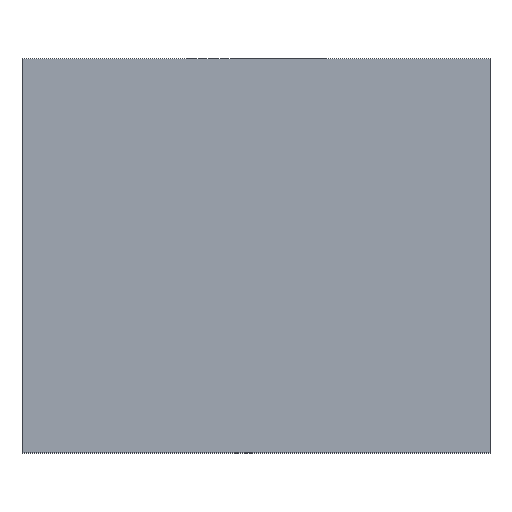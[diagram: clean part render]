
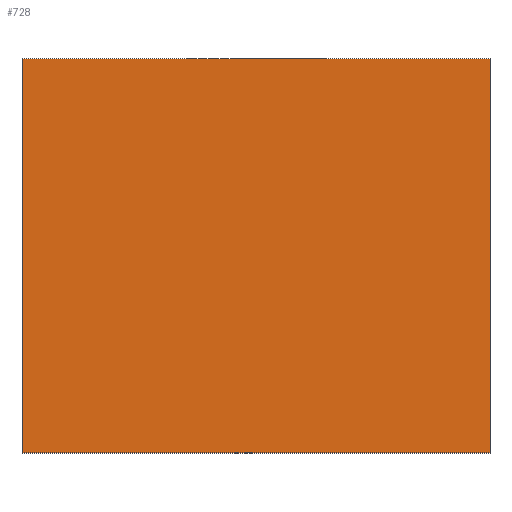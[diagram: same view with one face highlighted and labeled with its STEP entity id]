
A CAD part, top view. The second image highlights one B-rep face of the part: STEP entity #728.
In plain terms, the highlighted planar face has unit normal (0, 0, 1).
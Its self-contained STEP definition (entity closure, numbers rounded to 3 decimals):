
#81 = CARTESIAN_POINT ( 'NONE',  ( 0., 32., 10. ) ) ;
#89 = EDGE_CURVE ( 'NONE', #110, #757, #404, .T. ) ;
#105 = VECTOR ( 'NONE', #781, 1000. ) ;
#110 = VERTEX_POINT ( 'NONE', #237 ) ;
#118 = EDGE_LOOP ( 'NONE', ( #452, #846, #479, #935 ) ) ;
#139 = VERTEX_POINT ( 'NONE', #244 ) ;
#144 = CARTESIAN_POINT ( 'NONE',  ( 38., 32., 10. ) ) ;
#234 = CARTESIAN_POINT ( 'NONE',  ( 0., 32., 10. ) ) ;
#237 = CARTESIAN_POINT ( 'NONE',  ( 38., 0., 10. ) ) ;
#244 = CARTESIAN_POINT ( 'NONE',  ( 0., 0., 10. ) ) ;
#253 = DIRECTION ( 'NONE',  ( -1., 0., 0. ) ) ;
#281 = EDGE_CURVE ( 'NONE', #785, #139, #592, .T. ) ;
#293 = AXIS2_PLACEMENT_3D ( 'NONE', #1031, #959, #253 ) ;
#319 = DIRECTION ( 'NONE',  ( 0., 1., 0. ) ) ;
#321 = LINE ( 'NONE', #234, #105 ) ;
#392 = LINE ( 'NONE', #403, #463 ) ;
#403 = CARTESIAN_POINT ( 'NONE',  ( 0., 0., 10. ) ) ;
#404 = LINE ( 'NONE', #658, #893 ) ;
#452 = ORIENTED_EDGE ( 'NONE', *, *, #281, .T. ) ;
#463 = VECTOR ( 'NONE', #555, 1000. ) ;
#479 = ORIENTED_EDGE ( 'NONE', *, *, #89, .T. ) ;
#498 = FACE_OUTER_BOUND ( 'NONE', #118, .T. ) ;
#505 = CARTESIAN_POINT ( 'NONE',  ( 0., 0., 10. ) ) ;
#555 = DIRECTION ( 'NONE',  ( 1., 0., 0. ) ) ;
#592 = LINE ( 'NONE', #505, #610 ) ;
#610 = VECTOR ( 'NONE', #753, 1000. ) ;
#625 = PLANE ( 'NONE',  #293 ) ;
#658 = CARTESIAN_POINT ( 'NONE',  ( 38., 0., 10. ) ) ;
#728 = ADVANCED_FACE ( 'NONE', ( #498 ), #625, .F. ) ;
#753 = DIRECTION ( 'NONE',  ( 0., -1., 0. ) ) ;
#757 = VERTEX_POINT ( 'NONE', #144 ) ;
#779 = EDGE_CURVE ( 'NONE', #757, #785, #321, .T. ) ;
#781 = DIRECTION ( 'NONE',  ( -1., 0., 0. ) ) ;
#785 = VERTEX_POINT ( 'NONE', #81 ) ;
#846 = ORIENTED_EDGE ( 'NONE', *, *, #997, .T. ) ;
#893 = VECTOR ( 'NONE', #319, 1000. ) ;
#935 = ORIENTED_EDGE ( 'NONE', *, *, #779, .T. ) ;
#959 = DIRECTION ( 'NONE',  ( 0., 0., -1. ) ) ;
#997 = EDGE_CURVE ( 'NONE', #139, #110, #392, .T. ) ;
#1031 = CARTESIAN_POINT ( 'NONE',  ( 0., 0., 10. ) ) ;
